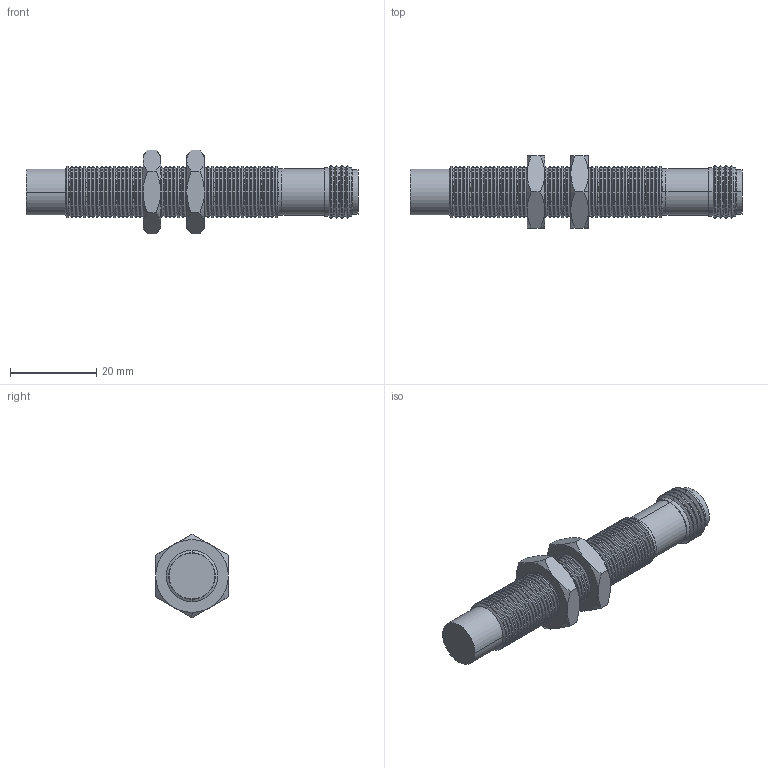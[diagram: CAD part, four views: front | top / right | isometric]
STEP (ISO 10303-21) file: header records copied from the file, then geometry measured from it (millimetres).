
FILE_DESCRIPTION (( 'STEP AP203' ), '1' );
FILE_NAME ('90-XXXX-057.STEP', '2015-08-31T03:45:15', ( 'Sam' ), ( 'Spade' ), 'SwSTEP 2.0', 'SolidWorks 2002296', '' );
FILE_SCHEMA (( 'CONFIG_CONTROL_DESIGN' ));
Length unit declared in the file: inch
Products named in the file (9): 90-XXXX-057; Imported341; Imported340; Imported339; Imported338; Imported344; Imported343; Imported342; Imported337
Assembly tree (8 placements, depth 2):
  90-XXXX-057
    Imported338
    Imported337
    Imported340
    Imported339
    Imported342
    Imported343
    Imported344
    Imported341
Bounding box: 77.09 x 16.87 x 19.47 mm (x, y, z)
Volume: 8477.4 mm3; surface area: 6488.2 mm2
Topology: 8 solids, 8 shells, 472 faces, 959 edges, 505 vertices
Faces by surface type: cone 284, cylinder 145, plane 37, bspline 6
Entity records: 13132 total; most frequent: DIRECTION 2335, CARTESIAN_POINT 2223, ORIENTED_EDGE 1906, EDGE_CURVE 953, AXIS2_PLACEMENT_3D 953, VERTEX_POINT 505, EDGE_LOOP 484, CIRCLE 476
